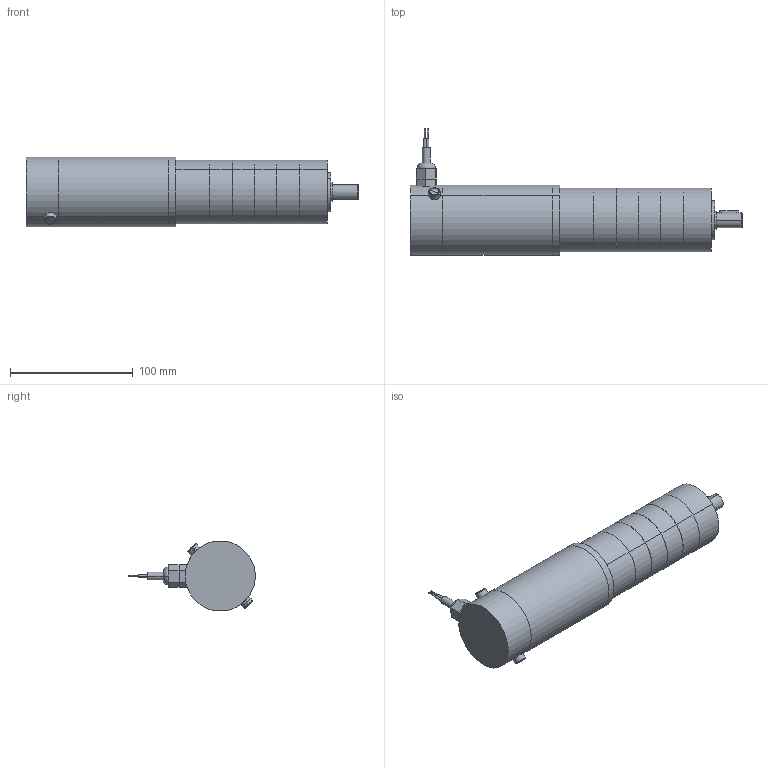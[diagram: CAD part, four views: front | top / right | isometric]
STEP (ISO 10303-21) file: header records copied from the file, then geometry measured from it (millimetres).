
FILE_DESCRIPTION (( 'STEP AP203' ), '1' );
FILE_NAME ('d22490gp4.step', '2022-05-11T15:33:21', ( '' ), ( '' ), 'SwSTEP 2.0', 'SolidWorks 2017', '' );
FILE_SCHEMA (( 'CONFIG_CONTROL_DESIGN' ));
Length unit declared in the file: millimetre
Products named in the file (1): d22490gp4
Bounding box: 270.77 x 102.92 x 56.93 mm (x, y, z)
Volume: 580629.9 mm3; surface area: 88557.2 mm2
Topology: 17 solids, 17 shells, 372 faces, 797 edges, 490 vertices
Faces by surface type: plane 159, cylinder 146, cone 57, torus 6, sphere 4
Entity records: 10295 total; most frequent: CARTESIAN_POINT 1904, DIRECTION 1898, ORIENTED_EDGE 1562, EDGE_CURVE 781, AXIS2_PLACEMENT_3D 754, VERTEX_POINT 490, EDGE_LOOP 439, LINE 390
